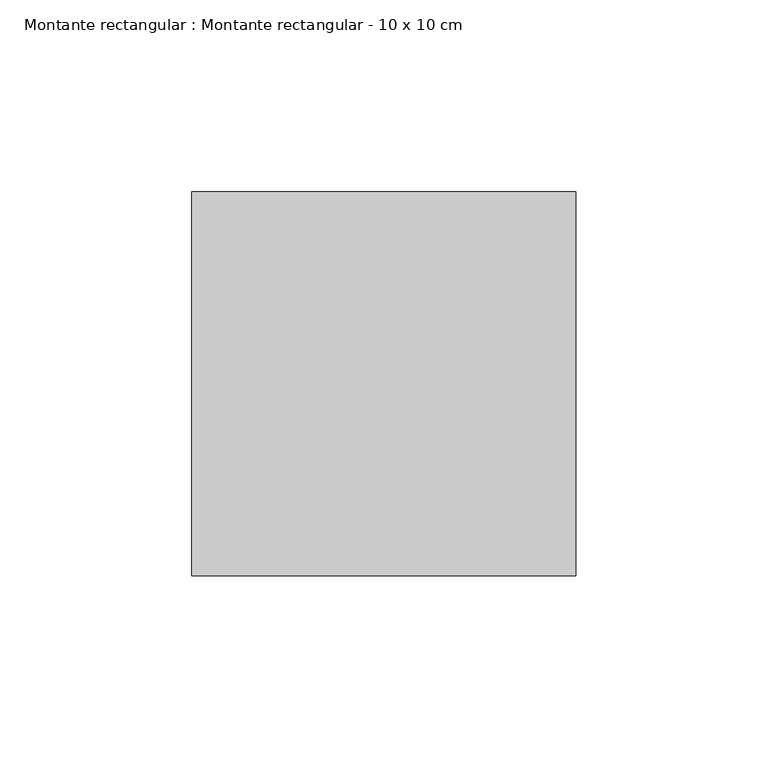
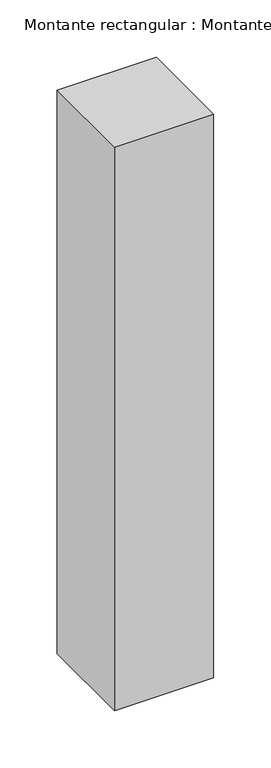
"""IFC4 building model written with IfcOpenShell, lengths in millimetres: member geometry, Montante rectangular : Montante rectangular - 10 x 10 cm."""

from ifc_helpers import new_model, si_unit, frame, origin, place, context, project, spatial, polyline, outline, extrude, source, transform, mapped, element, save


def montante_rectangular_montante_rectangular_10_x_10_cm_1dd9ad85(model_context):
    return source(origin(), model_context, "Body", "SweptSolid", [
        extrude(outline(polyline([(0.0, -50.0), (-100.0, -50.0), (-100.0, 50.0), (0.0, 50.0), (0.0, -50.0)])), frame((0.0, 0.0, -600.0), z_axis=(0.0, 0.0, 1.0), x_axis=(1.0, 0.0, 0.0)), (0.0, 0.0, 1.0), 600.0),
    ])


if __name__ == "__main__":
    model = new_model("IFC4")
    model_context = context("Model", 3, world=origin())
    ifc_project = project(units=[si_unit("LENGTHUNIT", "METRE", prefix="MILLI")], contexts=[model_context])
    site = spatial("IfcSite", under=ifc_project)
    building = spatial("IfcBuilding", under=site)
    placement = place(None, origin())
    montante_rectangular_montante_rectangular_10_x_10_cm_shape = montante_rectangular_montante_rectangular_10_x_10_cm_1dd9ad85(model_context)
    element("IfcMember", 1, ObjectType="Montante rectangular : Montante rectangular - 10 x 10 cm", at=placement, inside=building, context=model_context, shape_type="MappedRepresentation", body=[
        mapped(montante_rectangular_montante_rectangular_10_x_10_cm_shape, transform((0.0, 0.0, 0.0), x_axis=(1.0, 0.0, 0.0), y_axis=(0.0, 1.0, 0.0), z_axis=(0.0, 0.0, 1.0))),
    ])
    save(model, "model.ifc")
